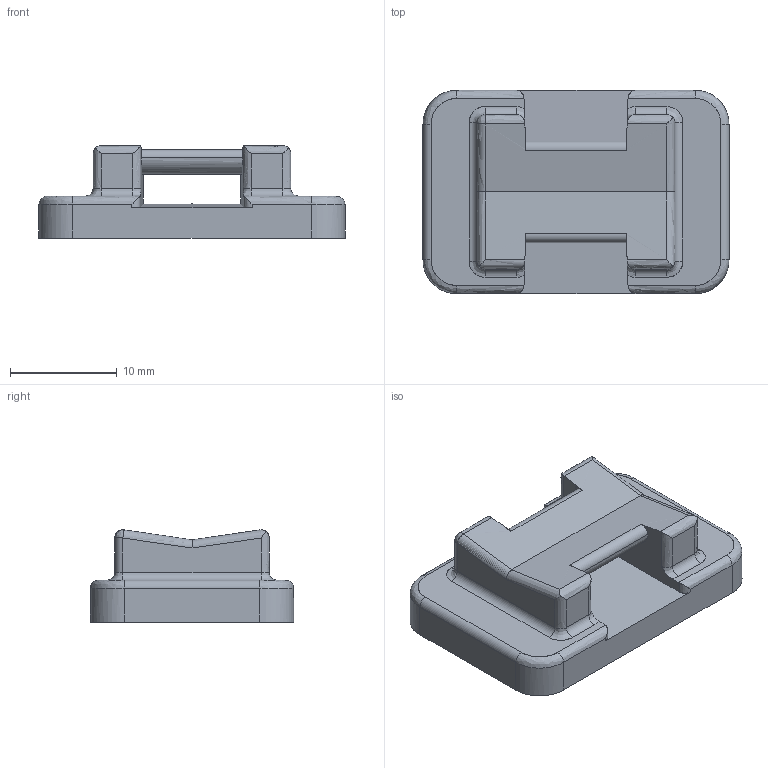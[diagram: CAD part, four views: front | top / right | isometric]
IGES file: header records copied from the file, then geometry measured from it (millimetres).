
Start section: SolidWorks IGES file using analytic representation for surfaces
Global section: file name: E:\billdocs\3D Models\IGES\cb4560\cb4560v5.igs; native system: SolidWorks 2015; preprocessor: SolidWorks 2015; author: bperez; date: 150717.100705; units: inch
Bounding box: 28.7 x 19.05 x 8.66 mm (x, y, z)
Surface area: 1878.7 mm2 (no closed solid volume)
Topology: 0 solids, 0 shells, 87 faces, 520 edges, 519 vertices
Faces by surface type: bspline 45, revolution 42
